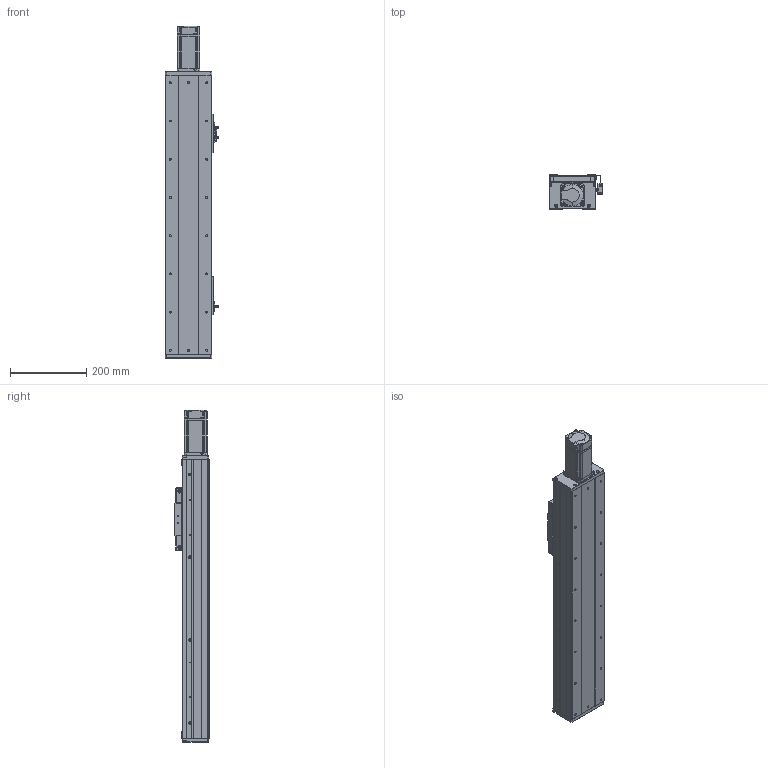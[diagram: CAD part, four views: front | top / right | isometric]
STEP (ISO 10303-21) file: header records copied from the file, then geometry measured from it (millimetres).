
FILE_DESCRIPTION (( 'STEP AP203' ), '1' );
FILE_NAME ('RY120F-L1620-300-MK.SLDASM_450.step', '2021-03-02T06:01:58', ( '盈信电脑' ), ( '东莞市道滘镇水果街19号' ), 'SwSTEP 2.0', 'SolidWorks 2012', '' );
FILE_SCHEMA (( 'CONFIG_CONTROL_DESIGN' ));
Length unit declared in the file: millimetre
Products named in the file (19): RY120F-L1620-300-MK.SLDASM_450; RY120F-臏賑輸 16蹟譫; FY120F詩湍揤踡輸; 滅袉蝶18-28; RY80俋离覜茼え; 672嫖萇羲壽假蚾釱; RY120F綴裔啣(臏璃ㄘ; RY120F-詩湍幗謫粣; 覜茼ん672; 滅袉蝶18-24; RY120F祥凄詩滅鳥裔; RY120F眻蟀ヶ裔啣; 侂狟400W侜督萇儂; 絳寢賑輸EGH15; RY120F-臏賑輸奻釱; 15; RY120F滅鳥詩湍-300-MK_450; RY120F-300-倰第裔啣_450; RY120F-300-倰第菁釱_450
Assembly tree (25 placements, depth 3):
  RY120F-L1620-300-MK.SLDASM_450
    RY120F-300-倰第菁釱_450
    RY120F-300-倰第裔啣_450  x2
    RY120F滅鳥詩湍-300-MK_450
    絳寢賑輸EGH15  x2
    RY120F-臏賑輸奻釱
    侂狟400W侜督萇儂
      15
    RY120F眻蟀ヶ裔啣
    RY120F祥凄詩滅鳥裔
    滅袉蝶18-24
    RY120F綴裔啣(臏璃ㄘ
    RY120F-詩湍幗謫粣
    覜茼ん672  x3
    672嫖萇羲壽假蚾釱  x2
    RY80俋离覜茼え
    FY120F詩湍揤踡輸  x2
    RY120F-臏賑輸 16蹟譫
    滅袉蝶18-28  x2
Bounding box: 140.35 x 89 x 868.5 mm (x, y, z)
Volume: 2874561.7 mm3; surface area: 989968.7 mm2
Topology: 24 solids, 24 shells, 2113 faces, 5641 edges, 3631 vertices
Faces by surface type: plane 966, cylinder 934, cone 195, bspline 18
Entity records: 56174 total; most frequent: CARTESIAN_POINT 10015, DIRECTION 9535, ORIENTED_EDGE 8910, EDGE_CURVE 4455, AXIS2_PLACEMENT_3D 3437, VERTEX_POINT 2915, LINE 2661, VECTOR 2661
